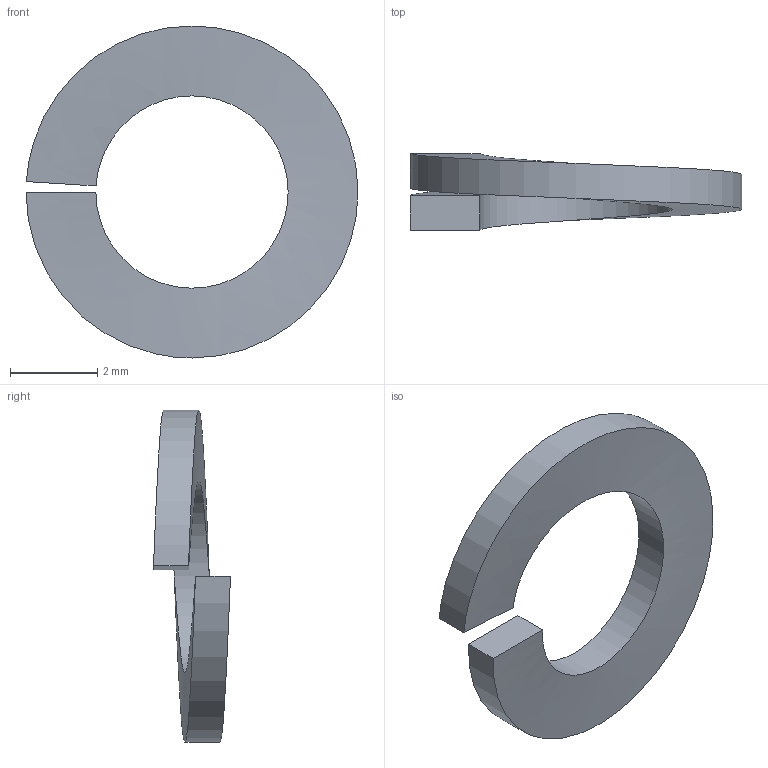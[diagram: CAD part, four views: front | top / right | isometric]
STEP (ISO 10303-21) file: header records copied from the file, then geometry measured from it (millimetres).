
FILE_DESCRIPTION((''),'2;1');
FILE_NAME('C:\Andys Backup Data\WEBSITE\DREAMWEAVER\MiniTec\Products\Screw_And_Nuts\Catalog_Pages\Washers\CAD\Step\21.1089_4 M4 LOCK WASHER SS.stp','2015-06-18T14:20:15',('amoles'),(''),'Autodesk Inventor 2012','Autodesk Inventor 2012','');
FILE_SCHEMA(('AUTOMOTIVE_DESIGN { 1 0 10303 214 1 1 1 1 }'));
Length unit declared in the file: millimetre
Products named in the file (1): 21.1089/4 M4 LOCK WASHER SS
Bounding box: 7.6 x 1.76 x 7.6 mm (x, y, z)
Volume: 23.9 mm3; surface area: 92.2 mm2
Topology: 1 solids, 1 shells, 6 faces, 20 edges, 16 vertices
Faces by surface type: cylinder 2, plane 2, bspline 2
Entity records: 324 total; most frequent: CARTESIAN_POINT 157, ORIENTED_EDGE 40, EDGE_CURVE 20, DIRECTION 18, VERTEX_POINT 16, VECTOR 8, LINE 8, EDGE_LOOP 6
